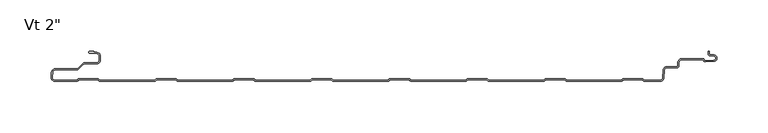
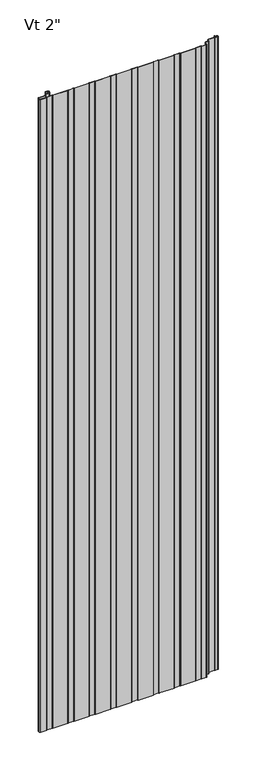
"""IFC4 building model written with IfcOpenShell, lengths in millimetres: plate geometry."""

from ifc_helpers import new_model, si_unit, point, frame_2d, origin, origin_with_axes, place, context, project, spatial, polyline, circle_curve, trimmed, segment, composite_curve, outline, extrude, source, transform, mapped, element, save


def plate_e773fe38(model_context):
    return source(origin(), model_context, "Body", "SweptSolid", [
        extrude(outline(composite_curve([segment(polyline([(-315.4415934, -50.7997378), (-337.2521176, -50.7997378)]), True, "CONTINUOUS"), segment(trimmed(circle_curve(frame_2d((-337.2521176, -47.2294985)), 3.5702393), [point((-337.2521176, -50.7997378))], [point((-340.808762, -46.9182281))], False, "CARTESIAN"), True, "CONTINUOUS"), segment(polyline([(-340.808762, -46.9182281), (-340.3690675, -41.8941815)]), True, "CONTINUOUS"), segment(trimmed(circle_curve(frame_2d((-336.7198392, -42.5049826)), 3.6999926), [point((-340.3690675, -41.8941815))], [point((-336.7198392, -38.80499))], False, "CARTESIAN"), True, "CONTINUOUS"), segment(polyline([(-336.7198392, -38.80499), (-315.5773997, -38.80499)]), True, "CONTINUOUS"), segment(trimmed(circle_curve(frame_2d((-315.5773997, -37.5049926)), 1.2999974), [point((-315.5773997, -38.80499))], [point((-314.6581627, -38.4242296))], True, "CARTESIAN"), True, "CONTINUOUS"), segment(polyline([(-314.6581627, -38.4242296), (-309.8297453, -33.5958121)]), True, "CONTINUOUS"), segment(trimmed(circle_curve(frame_2d((-307.9205608, -35.5049966)), 2.6999946), [point((-309.8297453, -33.5958121))], [point((-307.9205608, -32.805002))], False, "CARTESIAN"), True, "CONTINUOUS"), segment(polyline([(-307.9205608, -32.805002), (-296.1096717, -32.805002)]), True, "CONTINUOUS"), segment(trimmed(circle_curve(frame_2d((-296.1096717, -30.4550067)), 2.3499953), [point((-296.1096717, -32.805002))], [point((-293.7596764, -30.4550067))], True, "CARTESIAN"), True, "CONTINUOUS"), segment(polyline([(-293.7596764, -30.4550067), (-293.7596764, -26.0550155)]), True, "CONTINUOUS"), segment(trimmed(circle_curve(frame_2d((-296.1096717, -26.0550155)), 2.3499953), [point((-293.7596764, -26.0550155))], [point((-296.1096717, -23.7050202))], True, "CARTESIAN"), True, "CONTINUOUS"), segment(polyline([(-296.1096717, -23.7050202), (-302.6289779, -23.7050202)]), True, "CONTINUOUS"), segment(trimmed(circle_curve(frame_2d((-302.5686908, -22.506538)), 1.1999976), [point((-302.6289779, -23.7050202))], [point((-303.7683001, -22.4760161))], False, "CARTESIAN"), True, "CONTINUOUS"), segment(trimmed(circle_curve(frame_2d((-302.5686908, -22.506538)), 1.1999976), [point((-303.7683001, -22.4760161))], [point((-302.5671761, -21.3065413))], False, "CARTESIAN"), True, "CONTINUOUS"), segment(polyline([(-302.5671761, -21.3065413), (-298.8087827, -21.3065413), (-298.8087827, -22.7050202), (-296.1096717, -22.7050202)]), True, "CONTINUOUS"), segment(trimmed(circle_curve(frame_2d((-296.1096717, -26.0550155)), 3.3499953), [point((-296.1096717, -22.7050202))], [point((-292.7596764, -26.0550155))], False, "CARTESIAN"), True, "CONTINUOUS"), segment(polyline([(-292.7596764, -26.0550155), (-292.7596764, -30.4550067)]), True, "CONTINUOUS"), segment(trimmed(circle_curve(frame_2d((-296.1096717, -30.4550067)), 3.3499953), [point((-292.7596764, -30.4550067))], [point((-296.1096717, -33.805002))], False, "CARTESIAN"), True, "CONTINUOUS"), segment(polyline([(-296.1096717, -33.805002), (-307.9205608, -33.805002)]), True, "CONTINUOUS"), segment(trimmed(circle_curve(frame_2d((-307.9205608, -35.5049966)), 1.6999946), [point((-307.9205608, -33.805002))], [point((-309.1226385, -34.3029189))], True, "CARTESIAN"), True, "CONTINUOUS"), segment(polyline([(-309.1226385, -34.3029189), (-314.6247096, -39.80499), (-336.7198392, -39.80499)]), True, "CONTINUOUS"), segment(trimmed(circle_curve(frame_2d((-336.7198392, -42.5049826)), 2.6999926), [point((-336.7198392, -39.80499))], [point((-339.3765709, -42.023592))], True, "CARTESIAN"), True, "CONTINUOUS"), segment(polyline([(-339.3765709, -42.023592), (-339.8125699, -47.0054129)]), True, "CONTINUOUS"), segment(trimmed(circle_curve(frame_2d((-337.2521176, -47.2294985)), 2.5702393), [point((-339.8125699, -47.0054129))], [point((-337.2521176, -49.7997378))], True, "CARTESIAN"), True, "CONTINUOUS"), segment(polyline([(-337.2521176, -49.7997378), (-315.2790962, -49.7997378), (-314.0791277, -48.5997693), (-294.3597151, -48.5997693), (-293.1594844, -49.8), (-239.0793527, -49.8), (-237.879122, -48.5997693), (-218.1597095, -48.5997693), (-216.9594787, -49.8), (-162.879347, -49.8), (-161.6791163, -48.5997693), (-141.9597038, -48.5997693), (-140.7594731, -49.8), (-86.6793413, -49.8), (-85.4791106, -48.5997693), (-65.7596981, -48.5997693), (-64.5594674, -49.8), (-10.4793356, -49.8), (-9.2791049, -48.5997693), (10.4403076, -48.5997693), (11.6405383, -49.8), (65.7206701, -49.8), (66.9209008, -48.5997693), (86.6403133, -48.5997693), (87.840544, -49.8), (141.9206758, -49.8), (143.1209065, -48.5997693), (162.840319, -48.5997693), (164.0405497, -49.8), (218.1206815, -49.8), (219.3209122, -48.5997693), (239.0403247, -48.5997693), (240.2396538, -49.7990984), (256.3384359, -49.7990984)]), True, "CONTINUOUS"), segment(trimmed(circle_curve(frame_2d((256.3384359, -47.8491043)), 1.9499941), [point((256.3384359, -49.7990984))], [point((258.2810097, -48.0190575))], True, "CARTESIAN"), True, "CONTINUOUS"), segment(polyline([(258.2810097, -48.0190575), (259.0215397, -39.554761)]), True, "CONTINUOUS"), segment(trimmed(circle_curve(frame_2d((262.0400056, -39.8188426)), 3.0299959), [point((259.0215397, -39.554761))], [point((262.1657441, -36.7914567))], False, "CARTESIAN"), True, "CONTINUOUS"), segment(polyline([(262.1657441, -36.7914567), (272.2595941, -36.7914567)]), True, "CONTINUOUS"), segment(trimmed(circle_curve(frame_2d((272.2595941, -35.8423033)), 0.9491534), [point((272.2595941, -36.7914567))], [point((273.2087475, -35.8423033))], True, "CARTESIAN"), True, "CONTINUOUS"), segment(polyline([(273.2087475, -35.8423033), (273.2087475, -32.7009036)]), True, "CONTINUOUS"), segment(trimmed(circle_curve(frame_2d((277.2087415, -32.7009036)), 3.999994), [point((273.2087475, -32.7009036))], [point((277.2087415, -28.7009096))], False, "CARTESIAN"), True, "CONTINUOUS"), segment(polyline([(277.2087415, -28.7009096), (298.3895515, -28.7009096), (299.5334028, -30.6821181), (308.506811, -30.3268578)]), True, "CONTINUOUS"), segment(trimmed(circle_curve(frame_2d((308.4236622, -28.2266291)), 2.1018739), [point((308.506811, -30.3268578))], [point((308.5037148, -26.1262802))], True, "CARTESIAN"), True, "CONTINUOUS"), segment(polyline([(308.5037148, -26.1262802), (304.4977997, -25.8818653)]), True, "CONTINUOUS"), segment(trimmed(circle_curve(frame_2d((304.6099653, -24.0434917)), 1.8417922), [point((304.4977997, -25.8818653))], [point((302.7686884, -24.0870527))], False, "CARTESIAN"), True, "CONTINUOUS"), segment(polyline([(302.7686884, -24.0870527), (302.7686884, -21.3025061), (303.7686884, -21.3025061), (303.7686884, -24.0729389)]), True, "CONTINUOUS"), segment(trimmed(circle_curve(frame_2d((304.6099653, -24.0434917)), 0.8417922), [point((303.7686884, -24.0729389))], [point((304.5587, -24.8837214))], True, "CARTESIAN"), True, "CONTINUOUS"), segment(polyline([(304.5587, -24.8837214), (308.5543204, -25.1275082)]), True, "CONTINUOUS"), segment(trimmed(circle_curve(frame_2d((308.4236622, -28.2266291)), 3.1018739), [point((308.5543204, -25.1275082))], [point((308.5463704, -31.326075))], False, "CARTESIAN"), True, "CONTINUOUS"), segment(polyline([(308.5463704, -31.326075), (299.8344401, -31.6709833)]), True, "CONTINUOUS"), segment(trimmed(circle_curve(frame_2d((299.787224, -30.2217552)), 1.4499971), [point((299.8344401, -31.6709833))], [point((298.5314897, -30.9467537))], False, "CARTESIAN"), True, "CONTINUOUS"), segment(polyline([(298.5314897, -30.9467537), (297.8122013, -29.7009096), (277.2087415, -29.7009096)]), True, "CONTINUOUS"), segment(trimmed(circle_curve(frame_2d((277.2087415, -32.7009036)), 2.999994), [point((277.2087415, -29.7009096))], [point((274.2087475, -32.7009036))], True, "CARTESIAN"), True, "CONTINUOUS"), segment(polyline([(274.2087475, -32.7009036), (274.2087475, -35.8423033)]), True, "CONTINUOUS"), segment(trimmed(circle_curve(frame_2d((272.2595941, -35.8423033)), 1.9491534), [point((274.2087475, -35.8423033))], [point((272.2595941, -37.7914567))], False, "CARTESIAN"), True, "CONTINUOUS"), segment(polyline([(272.2595941, -37.7914567), (262.1429135, -37.7914567)]), True, "CONTINUOUS"), segment(trimmed(circle_curve(frame_2d((262.0400056, -39.8188426)), 2.0299959), [point((262.1429135, -37.7914567))], [point((260.0177344, -39.6419168))], True, "CARTESIAN"), True, "CONTINUOUS"), segment(polyline([(260.0177344, -39.6419168), (259.2772044, -48.1062132)]), True, "CONTINUOUS"), segment(trimmed(circle_curve(frame_2d((256.3384359, -47.8491043)), 2.9499941), [point((259.2772044, -48.1062132))], [point((256.3384359, -50.7990984))], False, "CARTESIAN"), True, "CONTINUOUS"), segment(polyline([(256.3384359, -50.7990984), (240.4528361, -50.7990984)]), True, "CONTINUOUS"), segment(trimmed(circle_curve(frame_2d((240.4020209, -49.4000237)), 1.3999972), [point((240.4528361, -50.7990984))], [point((239.3579701, -50.3327349))], False, "CARTESIAN"), True, "CONTINUOUS"), segment(polyline([(239.3579701, -50.3327349), (238.6250045, -49.5997693), (219.7343353, -49.5997693), (219.0013906, -50.332714)]), True, "CONTINUOUS"), segment(trimmed(circle_curve(frame_2d((217.9573398, -49.4000028)), 1.3999972), [point((219.0013906, -50.332714))], [point((217.9573398, -50.8))], False, "CARTESIAN"), True, "CONTINUOUS"), segment(polyline([(217.9573398, -50.8), (164.2098266, -50.8)]), True, "CONTINUOUS"), segment(trimmed(circle_curve(frame_2d((164.2021733, -49.4000237)), 1.3999972), [point((164.2098266, -50.8))], [point((163.1581225, -50.3327349))], False, "CARTESIAN"), True, "CONTINUOUS"), segment(polyline([(163.1581225, -50.3327349), (162.4251569, -49.5997693), (143.5344877, -49.5997693), (142.801543, -50.332714)]), True, "CONTINUOUS"), segment(trimmed(circle_curve(frame_2d((141.7574922, -49.4000028)), 1.3999972), [point((142.801543, -50.332714))], [point((141.7574922, -50.8))], False, "CARTESIAN"), True, "CONTINUOUS"), segment(polyline([(141.7574922, -50.8), (88.009979, -50.8)]), True, "CONTINUOUS"), segment(trimmed(circle_curve(frame_2d((88.0023257, -49.4000237)), 1.3999972), [point((88.009979, -50.8))], [point((86.9582749, -50.3327349))], False, "CARTESIAN"), True, "CONTINUOUS"), segment(polyline([(86.9582749, -50.3327349), (86.2253093, -49.5997693), (67.3346401, -49.5997693), (66.6016954, -50.332714)]), True, "CONTINUOUS"), segment(trimmed(circle_curve(frame_2d((65.5576446, -49.4000028)), 1.3999972), [point((66.6016954, -50.332714))], [point((65.5576446, -50.8))], False, "CARTESIAN"), True, "CONTINUOUS"), segment(polyline([(65.5576446, -50.8), (11.8101314, -50.8)]), True, "CONTINUOUS"), segment(trimmed(circle_curve(frame_2d((11.8024781, -49.4000237)), 1.3999972), [point((11.8101314, -50.8))], [point((10.7584273, -50.3327349))], False, "CARTESIAN"), True, "CONTINUOUS"), segment(polyline([(10.7584273, -50.3327349), (10.0254617, -49.5997693), (-8.8652075, -49.5997693), (-9.5981522, -50.332714)]), True, "CONTINUOUS"), segment(trimmed(circle_curve(frame_2d((-10.642203, -49.4000028)), 1.3999972), [point((-9.5981522, -50.332714))], [point((-10.642203, -50.8))], False, "CARTESIAN"), True, "CONTINUOUS"), segment(polyline([(-10.642203, -50.8), (-64.3897162, -50.8)]), True, "CONTINUOUS"), segment(trimmed(circle_curve(frame_2d((-64.3973695, -49.4000237)), 1.3999972), [point((-64.3897162, -50.8))], [point((-65.4414203, -50.3327349))], False, "CARTESIAN"), True, "CONTINUOUS"), segment(polyline([(-65.4414203, -50.3327349), (-66.1743859, -49.5997693), (-85.0650551, -49.5997693), (-85.7979998, -50.332714)]), True, "CONTINUOUS"), segment(trimmed(circle_curve(frame_2d((-86.8420506, -49.4000028)), 1.3999972), [point((-85.7979998, -50.332714))], [point((-86.8420506, -50.8))], False, "CARTESIAN"), True, "CONTINUOUS"), segment(polyline([(-86.8420506, -50.8), (-140.5895638, -50.8)]), True, "CONTINUOUS"), segment(trimmed(circle_curve(frame_2d((-140.5972171, -49.4000237)), 1.3999972), [point((-140.5895638, -50.8))], [point((-141.6412679, -50.3327349))], False, "CARTESIAN"), True, "CONTINUOUS"), segment(polyline([(-141.6412679, -50.3327349), (-142.3742335, -49.5997693), (-161.2649027, -49.5997693), (-161.9978474, -50.332714)]), True, "CONTINUOUS"), segment(trimmed(circle_curve(frame_2d((-163.0418982, -49.4000028)), 1.3999972), [point((-161.9978474, -50.332714))], [point((-163.0418982, -50.8))], False, "CARTESIAN"), True, "CONTINUOUS"), segment(polyline([(-163.0418982, -50.8), (-216.7894114, -50.8)]), True, "CONTINUOUS"), segment(trimmed(circle_curve(frame_2d((-216.7970647, -49.4000237)), 1.3999972), [point((-216.7894114, -50.8))], [point((-217.8411155, -50.3327349))], False, "CARTESIAN"), True, "CONTINUOUS"), segment(polyline([(-217.8411155, -50.3327349), (-218.5740811, -49.5997693), (-237.4647503, -49.5997693), (-238.197695, -50.332714)]), True, "CONTINUOUS"), segment(trimmed(circle_curve(frame_2d((-239.2417458, -49.4000028)), 1.3999972), [point((-238.197695, -50.332714))], [point((-239.2417458, -50.8))], False, "CARTESIAN"), True, "CONTINUOUS"), segment(polyline([(-239.2417458, -50.8), (-292.989259, -50.8)]), True, "CONTINUOUS"), segment(trimmed(circle_curve(frame_2d((-292.9969123, -49.4000237)), 1.3999972), [point((-292.989259, -50.8))], [point((-294.0409631, -50.3327349))], False, "CARTESIAN"), True, "CONTINUOUS"), segment(polyline([(-294.0409631, -50.3327349), (-294.7739287, -49.5997693), (-313.6649141, -49.5997693), (-314.3976403, -50.3324955)]), True, "CONTINUOUS"), segment(trimmed(circle_curve(frame_2d((-315.4415934, -49.3998717)), 1.3998661), [point((-314.3976403, -50.3324955))], [point((-315.4415934, -50.7997378))], False, "CARTESIAN"), True, "CONTINUOUS")], self_intersect=False)), origin_with_axes(), (0.0, 0.0, 1.0), 2400.0),
    ])


if __name__ == "__main__":
    model = new_model("IFC4")
    model_context = context("Model", 3, world=origin())
    ifc_project = project(units=[si_unit("LENGTHUNIT", "METRE", prefix="MILLI")], contexts=[model_context])
    site = spatial("IfcSite", under=ifc_project)
    building = spatial("IfcBuilding", under=site)
    placement = place(None, origin())
    plate_shape = plate_e773fe38(model_context)
    element("IfcPlate", 1, ObjectType="KIP-24-Karrier-KP-R19-CP-Vt-SL3-8in_SL : Vt 2\"", at=placement, inside=building, context=model_context, shape_type="MappedRepresentation", body=[
        mapped(plate_shape, transform((0.0, 0.0, 0.0), x_axis=(1.0, 0.0, 0.0), y_axis=(0.0, 1.0, 0.0), z_axis=(0.0, 0.0, 1.0))),
    ])
    save(model, "model.ifc")
